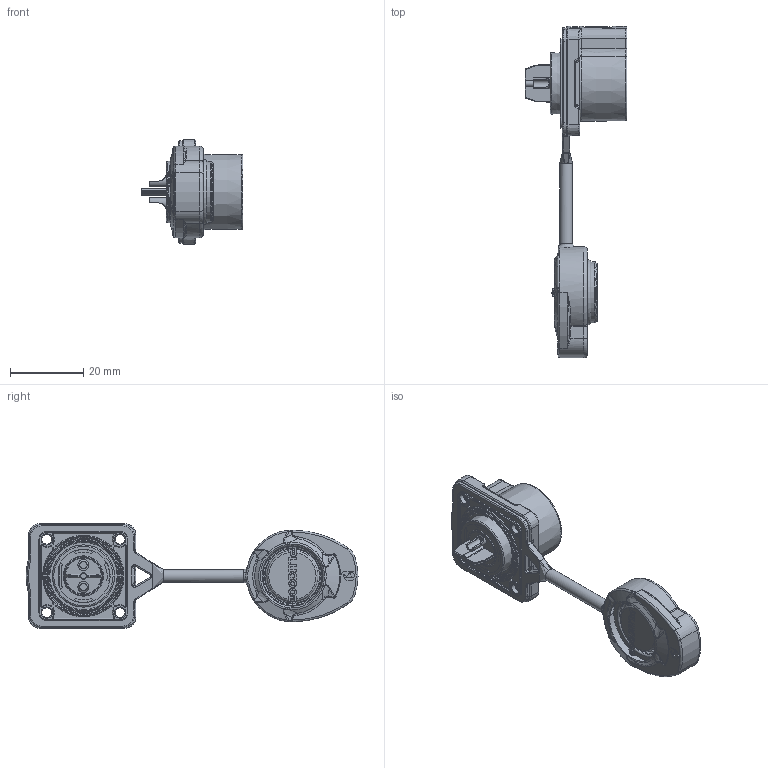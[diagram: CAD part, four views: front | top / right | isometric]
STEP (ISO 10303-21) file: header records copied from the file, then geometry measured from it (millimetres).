
FILE_DESCRIPTION (( 'STEP AP203' ), '1' );
FILE_NAME ('PLG16 2郋侐謂假蚾脣釱.STEP', '2025-07-25T09:02:04', ( '' ), ( '' ), 'SwSTEP 2.0', 'SolidWorks 2024', '' );
FILE_SCHEMA (( 'CONFIG_CONTROL_DESIGN' ));
Length unit declared in the file: millimetre
Products named in the file (1): PLG16 2芯四孔安装插座
Bounding box: 27.8 x 90.57 x 28.5 mm (x, y, z)
Volume: 10377.4 mm3; surface area: 9504.5 mm2
Topology: 1 solids, 10 shells, 1221 faces, 3062 edges, 1883 vertices
Faces by surface type: cylinder 347, plane 341, bspline 241, torus 201, cone 76, sphere 15
Full cylindrical faces by diameter (mm): 1.061 x1, 2 x4, 2.088 x1, 2.1 x2, 2.7 x4, 3 x4, 3.15 x2, 3.3 x4, 3.5 x1, 6 x4, 13.9 x1, 15.551 x1, 16.7 x4, 17 x1, 18.4 x1, 19.6 x1, 21 x1
Entity records: 42080 total; most frequent: CARTESIAN_POINT 15349, ORIENTED_EDGE 5868, DIRECTION 5101, EDGE_CURVE 2934, AXIS2_PLACEMENT_3D 2032, VERTEX_POINT 1850, EDGE_LOOP 1358, FACE_OUTER_BOUND 1278
